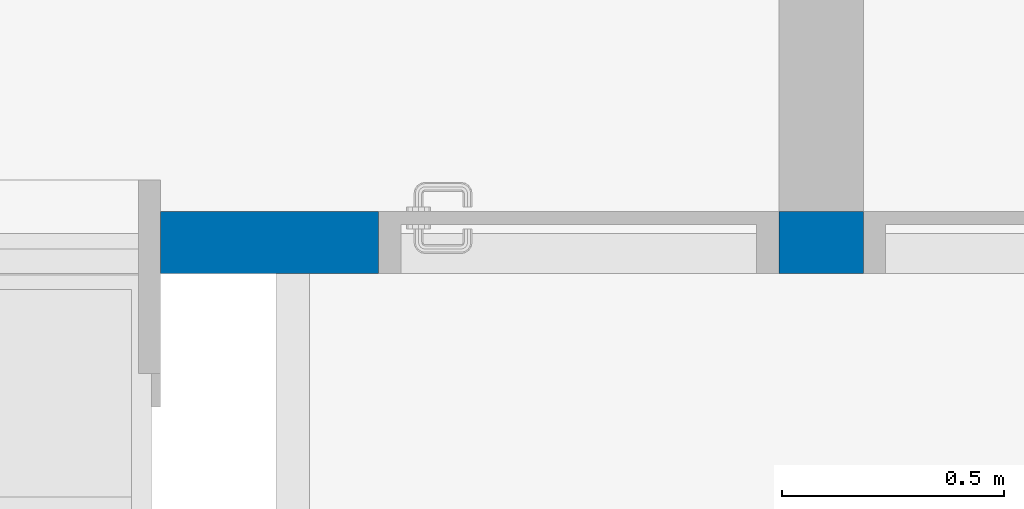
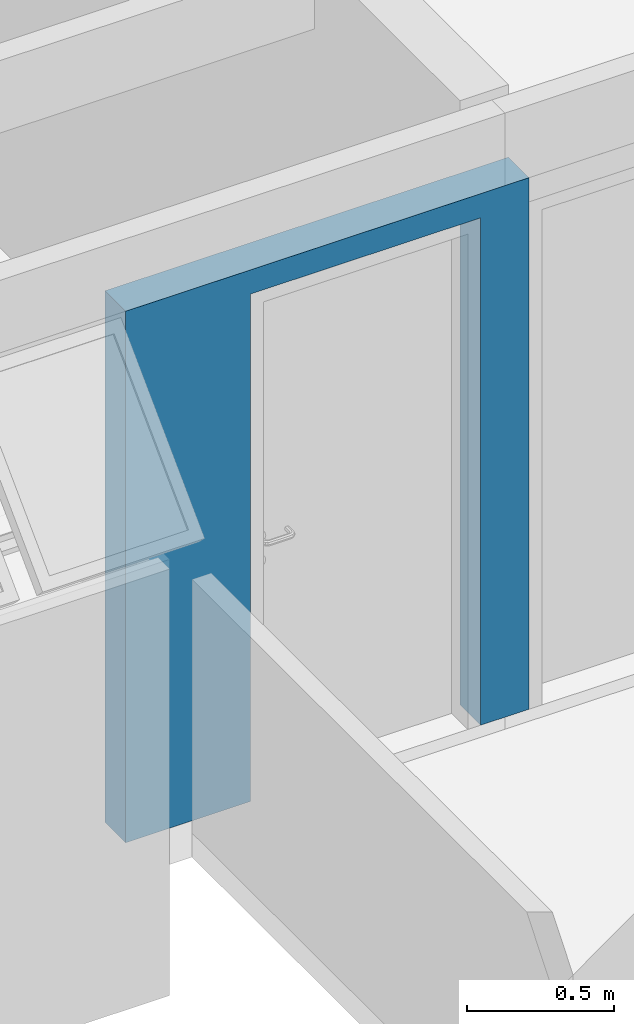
# One storey, part 17 of 38: 1 wall, 1 opening.
"""IFC2X3 building model written with IfcOpenShell, lengths in millimetres."""

from ifc_helpers import new_model, entity, si_unit, converted_unit, derived_unit, money_unit, direction, frame, origin_with_axes, origin_2d_with_axis, place, context, subcontext, project, spatial, polyline, rectangle, outline, extrude, material, layer, layer_set, layer_usage, type_object, element, save


model = new_model("IFC2X3")

# Units and contexts
model_context = context("Model", 3, precision=0.01, world=origin_with_axes(), true_north=direction((0.0, 1.0)))
body_context = subcontext(model_context, "Body", "Model", "MODEL_VIEW")
ifc_project = project(units=[si_unit("LENGTHUNIT", "METRE", prefix="MILLI"), si_unit("AREAUNIT", "SQUARE_METRE"), si_unit("VOLUMEUNIT", "CUBIC_METRE"), converted_unit("PLANEANGLEUNIT", "DEGREE", entity("IfcPlaneAngleMeasure", 0.0174532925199), si_unit("PLANEANGLEUNIT", "RADIAN"), dimensions=[0, 0, 0, 0, 0, 0, 0]), money_unit("USD"), converted_unit("TIMEUNIT", "Year", entity("IfcTimeMeasure", 31556926.0), si_unit("TIMEUNIT", "SECOND"), dimensions=[0, 0, 1, 0, 0, 0, 0]), si_unit("MASSUNIT", "GRAM", prefix="KILO"), si_unit("THERMODYNAMICTEMPERATUREUNIT", "DEGREE_CELSIUS"), si_unit("LUMINOUSINTENSITYUNIT", "LUMEN"), si_unit("ENERGYUNIT", "JOULE", prefix="MEGA"), derived_unit("THERMALCONDUCTANCEUNIT", [(si_unit("POWERUNIT", "WATT"), 1), (si_unit("LENGTHUNIT", "METRE"), -1), (si_unit("THERMODYNAMICTEMPERATUREUNIT", "KELVIN"), -1)]), derived_unit("SPECIFICHEATCAPACITYUNIT", [(si_unit("ENERGYUNIT", "JOULE"), 1), (si_unit("MASSUNIT", "GRAM", prefix="KILO"), -1), (si_unit("THERMODYNAMICTEMPERATUREUNIT", "KELVIN"), -1)]), derived_unit("MASSDENSITYUNIT", [(si_unit("MASSUNIT", "GRAM", prefix="KILO"), 1), (si_unit("VOLUMEUNIT", "CUBIC_METRE"), -1)])], contexts=[model_context])

# Site, building, storey
site_placement = place(None, origin_with_axes())
site = spatial("IfcSite", under=ifc_project, at=site_placement, Name="Local", CompositionType="ELEMENT")
building_placement = place(site_placement, origin_with_axes())
building = spatial("IfcBuilding", under=site, at=building_placement, Name="Construção", CompositionType="ELEMENT")
storey_placement = place(building_placement, frame((0.0, 0.0, 2650.0), z_axis=(0.0, 0.0, 1.0), x_axis=(1.0, 0.0, 0.0)))
storey = spatial("IfcBuildingStorey", under=building, at=storey_placement, Name="Segundo Pavimento", CompositionType="ELEMENT", Elevation=2650.0)

# Wall, opening
ifc_material = material(Name="GENÉRICO - VEDAÇÃO EXTERNA")
ifc_layer = layer(ifc_material, 140.0, ventilated="UNKNOWN")
ifc_layer_set = layer_set([ifc_layer], Name="GENÉRICO - VEDAÇÃO EXTERNA 140")
ifc_layer_usage = layer_usage(ifc_layer_set, "AXIS2", "POSITIVE", 0.0)
wall_type = type_object("IfcWallType", Name="GENÉRICO - VEDAÇÃO EXTERNA 140", PredefinedType="NOTDEFINED")
wall_placement = place(storey_placement, frame((7480.0, 18035.0, 0.0), z_axis=(0.0, 0.0, 1.0), x_axis=(-1.0, 0.0, 0.0)))
wall = element("IfcWallStandardCase", 1, at=wall_placement, inside=storey, type_object=wall_type, material=ifc_layer_usage, Name="APTO7-PAREDE-004", context=body_context, shape_type="SweptSolid", body=[
    extrude(outline(polyline([(0.0, 0.0), (1580.0, 0.0), (1580.0, 140.0), (0.0, 140.0), (0.0, 0.0)])), origin_with_axes(), (0.0, 0.0, 1.0), 2200.0),
])
opening_placement = place(wall_placement, frame((640.0, 0.0, 0.0), z_axis=(0.0, 0.0, 1.0), x_axis=(1.0, 0.0, 0.0)))
element("IfcOpeningElement", 2, at=opening_placement, cuts=wall, Name="APTO7-PORTA-004", context=body_context, shape_type="SweptSolid", body=[
    extrude(rectangle(XDim=900.0, YDim=2100.0, at=origin_2d_with_axis()), frame((0.0, -140.0, 1050.0), z_axis=(0.0, 1.0, 0.0), x_axis=(-1.0, 0.0, 0.0)), (0.0, 0.0, 1.0), 420.0),
])

save(model, "model.ifc")
